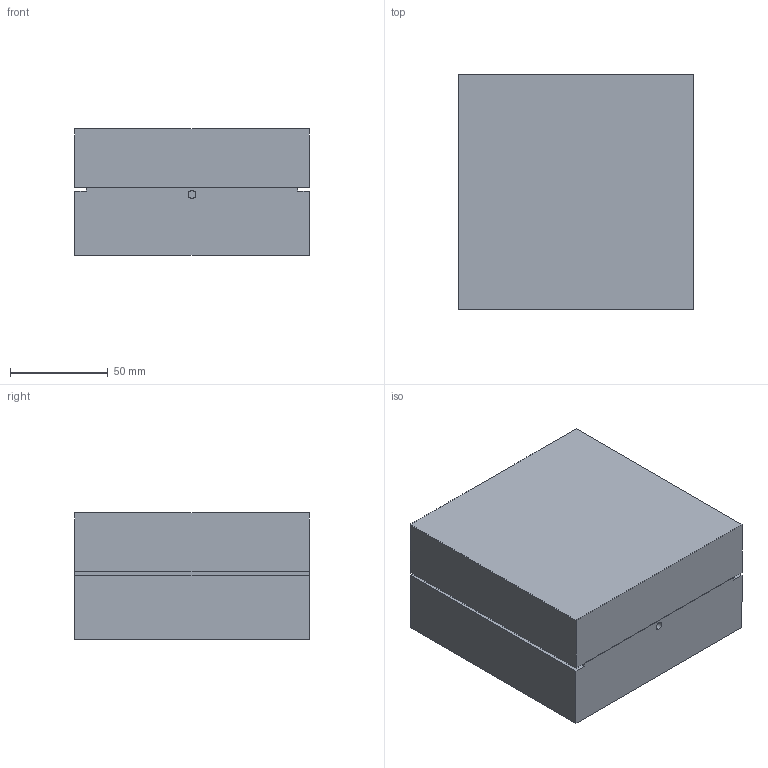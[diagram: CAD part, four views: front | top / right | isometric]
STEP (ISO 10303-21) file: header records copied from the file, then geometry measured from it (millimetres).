
FILE_DESCRIPTION (( 'STEP AP214' ), '1' );
FILE_NAME ('Mould_Switch-Insert-Side_A.STEP', '2020-01-06T13:11:58', ( 'Ritterchen' ), ( 'Microsoft' ), 'SwSTEP 2.0', 'SolidWorks 2020', '' );
FILE_SCHEMA (( 'AUTOMOTIVE_DESIGN' ));
Length unit declared in the file: millimetre
Products named in the file (1): Mould_Switch-Insert-Side_A
Bounding box: 120 x 120 x 64.47 mm (x, y, z)
Volume: 926085.5 mm3; surface area: 97440.3 mm2
Topology: 2 solids, 2 shells, 410 faces, 1567 edges, 1189 vertices
Faces by surface type: bspline 285, plane 70, cylinder 36, sphere 17, cone 2
Entity records: 24338 total; most frequent: CARTESIAN_POINT 14296, ORIENTED_EDGE 3126, EDGE_CURVE 1563, B_SPLINE_CURVE_WITH_KNOTS 1340, VERTEX_POINT 1189, DIRECTION 574, EDGE_LOOP 460, ADVANCED_FACE 410
